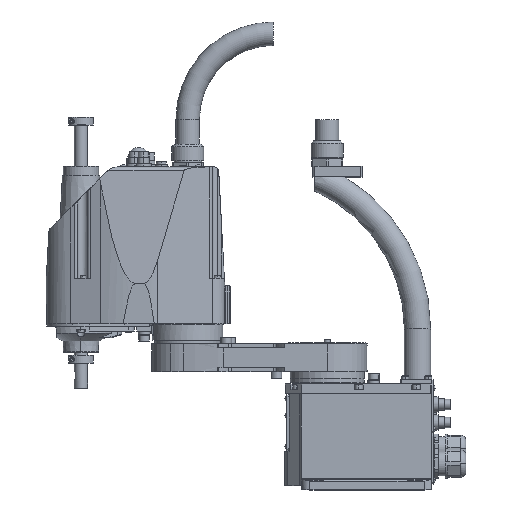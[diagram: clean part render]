
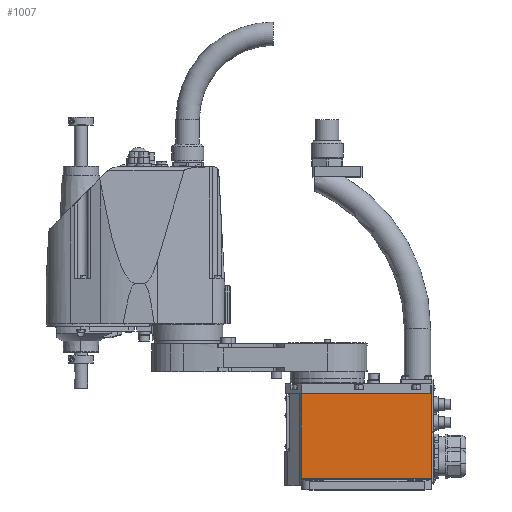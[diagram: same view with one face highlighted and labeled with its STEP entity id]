
A CAD part, top view. The second image highlights one B-rep face of the part: STEP entity #1007.
In plain terms, the highlighted planar face has unit normal (0, 0, 1).
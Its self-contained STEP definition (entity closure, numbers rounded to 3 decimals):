
#1007 = ADVANCED_FACE( '', ( #3765 ), #3766, .T. );
#3765 = FACE_OUTER_BOUND( '', #7722, .T. );
#3766 = PLANE( '', #7723 );
#7722 = EDGE_LOOP( '', ( #16257, #16258, #16259, #16260 ) );
#7723 = AXIS2_PLACEMENT_3D( '', #16261, #16262, #16263 );
#16257 = ORIENTED_EDGE( '', *, *, #26398, .T. );
#16258 = ORIENTED_EDGE( '', *, *, #26270, .T. );
#16259 = ORIENTED_EDGE( '', *, *, #26441, .T. );
#16260 = ORIENTED_EDGE( '', *, *, #26128, .F. );
#16261 = CARTESIAN_POINT( '', ( -51.5, 14., 50.5 ) );
#16262 = DIRECTION( '', ( 0., 0., 1. ) );
#16263 = DIRECTION( '', ( 0., -1., 0. ) );
#26128 = EDGE_CURVE( '', #31734, #31736, #31737, .T. );
#26270 = EDGE_CURVE( '', #31962, #31960, #31963, .T. );
#26398 = EDGE_CURVE( '', #31734, #31962, #32161, .T. );
#26441 = EDGE_CURVE( '', #31960, #31736, #32225, .T. );
#31734 = VERTEX_POINT( '', #40434 );
#31736 = VERTEX_POINT( '', #40436 );
#31737 = LINE( '', #40437, #40438 );
#31960 = VERTEX_POINT( '', #40891 );
#31962 = VERTEX_POINT( '', #40893 );
#31963 = LINE( '', #40894, #40895 );
#32161 = LINE( '', #41280, #41281 );
#32225 = LINE( '', #41402, #41403 );
#40434 = CARTESIAN_POINT( '', ( -31.897, 117., 50.5 ) );
#40436 = CARTESIAN_POINT( '', ( 127., 117., 50.5 ) );
#40437 = CARTESIAN_POINT( '', ( -51.5, 117., 50.5 ) );
#40438 = VECTOR( '', #51576, 1. );
#40891 = CARTESIAN_POINT( '', ( 127., 14., 50.5 ) );
#40893 = CARTESIAN_POINT( '', ( -31.897, 14., 50.5 ) );
#40894 = CARTESIAN_POINT( '', ( -51.5, 14., 50.5 ) );
#40895 = VECTOR( '', #51787, 1. );
#41280 = CARTESIAN_POINT( '', ( -31.897, 65.5, 50.5 ) );
#41281 = VECTOR( '', #51990, 1. );
#41402 = CARTESIAN_POINT( '', ( 127., 117., 50.5 ) );
#41403 = VECTOR( '', #52049, 1. );
#51576 = DIRECTION( '', ( 1., 0., 0. ) );
#51787 = DIRECTION( '', ( 1., 0., 0. ) );
#51990 = DIRECTION( '', ( 0., -1., 0. ) );
#52049 = DIRECTION( '', ( 0., 1., 0. ) );
